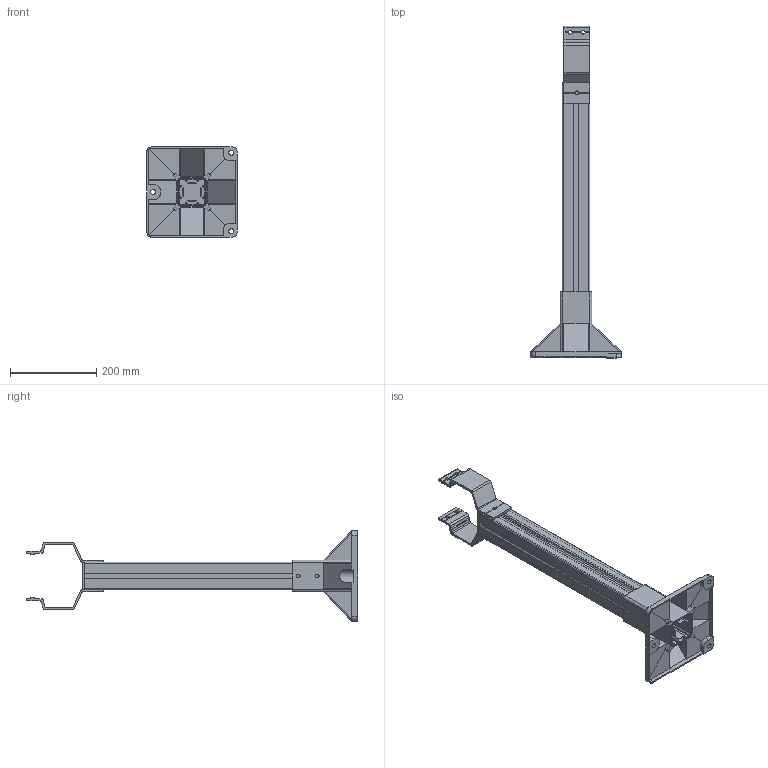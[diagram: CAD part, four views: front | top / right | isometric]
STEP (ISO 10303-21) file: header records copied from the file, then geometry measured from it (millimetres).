
FILE_DESCRIPTION (( 'STEP AP214' ), '1' );
FILE_NAME ('FC-PC64.STEP', '2011-04-13T14:20:43', ( '.' ), ( '' ), 'SwSTEP 2.0', 'SolidWorks 2010', '' );
FILE_SCHEMA (( 'AUTOMOTIVE_DESIGN' ));
Length unit declared in the file: millimetre
Products named in the file (5): 254 01 004.embout; EC210-64.embase alu 210x210; ___TC64.long635; FAVBS-60C_Default; FC-PC64
Assembly tree (5 placements, depth 2):
  FC-PC64
    FAVBS-60C_Default  x2
    254 01 004.embout
    EC210-64.embase alu 210x210
    ___TC64.long635
Bounding box: 210 x 770.11 x 210 mm (x, y, z)
Volume: 918419.3 mm3; surface area: 798130.3 mm2
Topology: 5 solids, 9 shells, 515 faces, 1458 edges, 956 vertices
Faces by surface type: plane 317, cylinder 194, sphere 4
Entity records: 15185 total; most frequent: CARTESIAN_POINT 2856, ORIENTED_EDGE 2614, DIRECTION 2491, EDGE_CURVE 1307, VECTOR 925, LINE 925, VERTEX_POINT 860, AXIS2_PLACEMENT_3D 783
